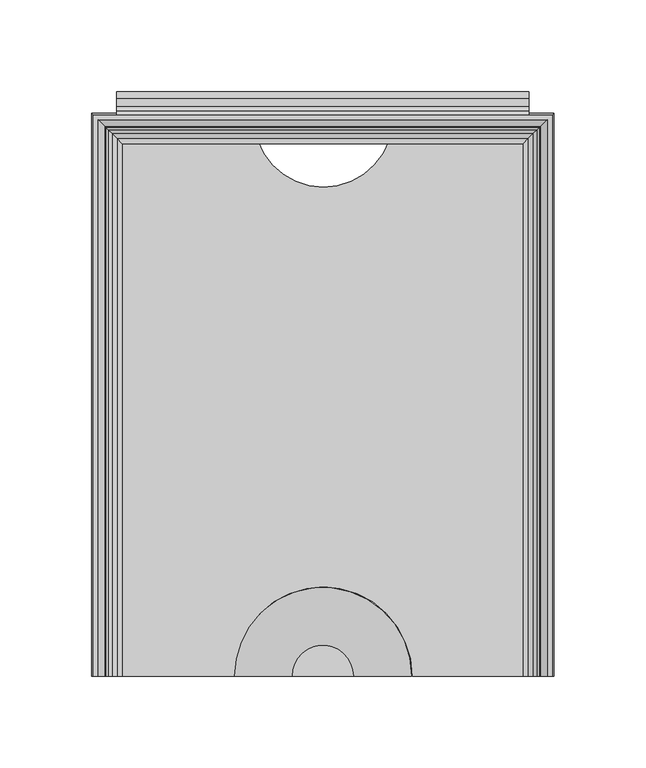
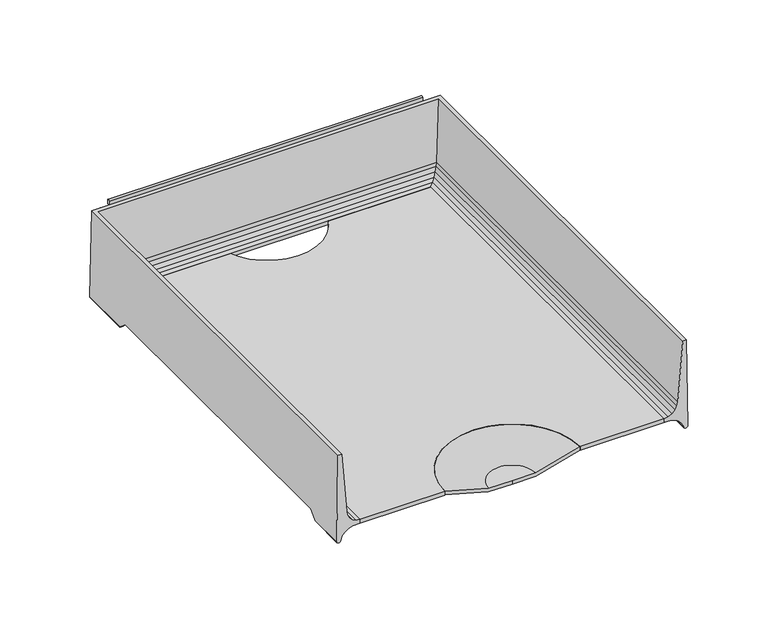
"""IFC4 building model written with IfcOpenShell, lengths in millimetres: furniture geometry."""

from ifc_helpers import new_model, si_unit, point, frame, frame_2d, origin, place, context, project, spatial, polyline, circle_curve, ellipse_curve, trimmed, segment, composite_curve, outline, extrude, source, transform, mapped, element, save
from ifc_brep_helpers import plane_surface, cylinder_surface, revolved_surface, advanced_brep


def furniture_baef4f76(model_context):
    return source(origin(), model_context, "Body", "SolidModel", [
        advanced_brep(
        [(126.0820502, -154.0206082, 950.6007489), (125.1325529, -154.0206082, 1016.0001914), (122.4547921, -154.0206082, 1016.0001914), (118.8379747, -154.0206082, 971.2131003), (118.4123648, -154.0206082, 968.4796052), (117.0774354, -154.0206082, 965.7785664), (114.9656457, -154.0206082, 963.6296015), (112.28832, -154.0206082, 962.2477261), (109.3133381, -154.0206082, 961.7712052), (109.3133381, -154.0206082, 958.9490971), (114.5666739, -154.0206082, 958.7560987), (117.605351, -154.0206082, 957.6997218), (120.2416, -154.0206082, 955.8558822), (122.2762142, -154.0206082, 953.3639079), (123.1625518, -154.0206082, 950.3206655), (126.0820502, -127.6379698, 950.6007489), (126.0026181, -121.5231874, 956.071872), (126.0026181, 109.0611937, 956.071872), (126.0820502, 115.1759816, 950.6007489), (126.0820502, 153.036442, 950.6007489), (125.1325529, 152.0869447, 1016.0001914), (-125.1325529, 152.0869447, 1016.0001914), (-125.1325529, -154.0206082, 1016.0001914), (-122.4547921, -154.0206082, 1016.0001914), (-122.4547921, 149.4091839, 1016.0001914), (122.4547921, 149.4091839, 1016.0001914), (118.8379747, 145.7923665, 971.2131003), (118.4123648, 145.3667566, 968.4796052), (117.0774354, 144.0318272, 965.7785664), (114.9656457, 141.9200375, 963.6296015), (112.28832, 139.2427118, 962.2477261), (109.3133381, 136.2677299, 961.7712052), (109.3133381, 136.2677299, 958.9490971), (114.5666739, 141.5210656, 958.7560987), (117.605351, 144.5597428, 957.6997218), (120.2416, 147.1959918, 955.8558822), (120.2416, 109.3025941, 955.8558822), (119.9327864, 109.0611937, 956.071872), (119.9327864, -121.5231874, 956.071872), (120.2416, -121.7645876, 955.8558822), (122.2762142, -124.5497344, 953.3639079), (122.2762142, 149.230606, 953.3639079), (122.2762142, 112.0877435, 953.3639079), (123.1625518, -127.9510041, 950.3206655), (123.1625518, 150.1169436, 950.3206655), (123.1625518, 115.4890162, 950.3206655), (-126.0820502, 153.036442, 950.6007489), (-118.8379747, 145.7923665, 971.2131003), (-118.4123648, 145.3667566, 968.4796052), (-117.0774354, 144.0318272, 965.7785664), (-114.9656457, 141.9200375, 963.6296015), (-112.28832, 139.2427118, 962.2477261), (-109.3133381, 136.2677299, 961.7712052), (-109.3133381, 136.2677299, 958.9490971), (-114.5666739, 141.5210656, 958.7560987), (-117.605351, 144.5597428, 957.6997218), (-120.2416, 147.1959918, 955.8558822), (-122.2762142, 149.230606, 953.3639079), (-123.1625518, 150.1169436, 950.3206655), (-126.0820502, -154.0206082, 950.6007489), (-123.1625518, -154.0206082, 950.3206655), (-122.2762142, -154.0206082, 953.3639079), (-120.2416, -154.0206082, 955.8558822), (-117.605351, -154.0206082, 957.6997218), (-114.5666739, -154.0206082, 958.7560987), (-109.3133381, -154.0206082, 958.9490971), (-109.3133381, -154.0206082, 961.7712052), (-112.28832, -154.0206082, 962.2477261), (-114.9656457, -154.0206082, 963.6296015), (-117.0774354, -154.0206082, 965.7785664), (-118.4123648, -154.0206082, 968.4796052), (-118.8379747, -154.0206082, 971.2131003), (-126.0820502, 115.1759816, 950.6007489), (-126.0026181, 109.0611937, 956.071872), (-126.0026181, -121.5231874, 956.071872), (-126.0820502, -127.6379698, 950.6007489), (-120.2416, -121.7645876, 955.8558822), (-119.9327864, -121.5231874, 956.071872), (-119.9327864, 109.0611937, 956.071872), (-120.2416, 109.3025941, 955.8558822), (-122.2762142, 112.0877435, 953.3639079), (-122.2762142, -124.5497344, 953.3639079), (-123.1625518, 115.4890162, 950.3206655), (-123.1625518, -127.9510041, 950.3206655)],
        [
            (0, 1),
            (1, 2),
            (2, 3),
            (3, 4),
            (4, 5),
            (5, 6),
            (6, 7),
            (7, 8),
            (8, 9),
            (9, 10),
            (10, 11),
            (11, 12),
            (12, 13),
            (13, 14),
            (14, 0, circle_curve(frame((124.5859452, -154.0206082, 950.8396685), z_axis=(0.0, -1.0, 0.0), x_axis=(-1.0, 0.0, 0.0)), 1.515062)),
            (0, 15),
            (15, 16),
            (16, 17),
            (17, 18),
            (18, 19),
            (19, 20),
            (20, 1),
            (20, 21),
            (21, 22),
            (22, 23),
            (23, 24),
            (24, 25),
            (25, 2),
            (25, 26),
            (26, 3),
            (26, 27),
            (27, 4),
            (27, 28),
            (28, 5),
            (28, 29),
            (29, 6),
            (29, 30),
            (30, 7),
            (30, 31),
            (31, 8),
            (31, 32),
            (32, 9),
            (32, 33),
            (33, 10),
            (33, 34),
            (34, 11),
            (34, 35),
            (35, 36),
            (36, 37),
            (37, 38),
            (38, 39),
            (39, 12),
            (39, 40),
            (40, 13),
            (35, 41),
            (41, 42),
            (42, 36),
            (40, 43),
            (43, 14),
            (41, 44),
            (44, 45),
            (45, 42),
            (43, 15, ellipse_curve(frame((124.5859452, -127.3709422, 950.8396685), z_axis=(0.0, -0.6667949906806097, 0.7452411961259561), x_axis=(0.0, -0.7452411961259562, -0.6667949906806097)), 2.2721556, 1.515062)),
            (44, 19, ellipse_curve(frame((124.5859452, 151.540337, 950.8396685), z_axis=(0.7071067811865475, -0.7071067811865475, 0.0), x_axis=(-0.7071067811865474, -0.7071067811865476, 0.0)), 2.1426212, 1.515062)),
            (18, 45, ellipse_curve(frame((124.5859452, 114.9089538, 950.8396685), z_axis=(0.0, 0.6667946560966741, 0.7452414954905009), x_axis=(0.0, -0.7452414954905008, 0.6667946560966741)), 2.2721567, 1.515062)),
            (19, 46),
            (46, 21),
            (24, 47),
            (47, 26),
            (47, 48),
            (48, 27),
            (48, 49),
            (49, 28),
            (49, 50),
            (50, 29),
            (50, 51),
            (51, 30),
            (51, 52),
            (52, 31),
            (52, 53),
            (53, 32),
            (53, 54),
            (54, 33),
            (54, 55),
            (55, 34),
            (55, 56),
            (56, 35),
            (56, 57),
            (57, 41),
            (57, 58),
            (58, 44),
            (58, 46, ellipse_curve(frame((-124.5859452, 151.540337, 950.8396685), z_axis=(0.7071067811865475, 0.7071067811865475, 0.0), x_axis=(0.7071067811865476, -0.7071067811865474, 0.0)), 2.1426212, 1.515062)),
            (22, 59),
            (59, 60, circle_curve(frame((-124.5859452, -154.0206082, 950.8396685), z_axis=(0.0, -1.0, 0.0), x_axis=(1.0, 0.0, 0.0)), 1.515062)),
            (60, 61),
            (61, 62),
            (62, 63),
            (63, 64),
            (64, 65),
            (65, 66),
            (66, 67),
            (67, 68),
            (68, 69),
            (69, 70),
            (70, 71),
            (71, 23),
            (46, 72),
            (72, 73),
            (73, 74),
            (74, 75),
            (75, 59),
            (71, 47),
            (70, 48),
            (69, 49),
            (68, 50),
            (67, 51),
            (66, 52),
            (65, 53),
            (64, 54),
            (63, 55),
            (62, 76),
            (76, 77),
            (77, 78),
            (78, 79),
            (79, 56),
            (79, 80),
            (80, 57),
            (61, 81),
            (81, 76),
            (80, 82),
            (82, 58),
            (60, 83),
            (83, 81),
            (82, 72, ellipse_curve(frame((-124.5859452, 114.9089538, 950.8396685), z_axis=(0.0, 0.6667946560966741, 0.7452414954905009), x_axis=(0.0, 0.7452414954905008, -0.6667946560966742)), 2.2721567, 1.515062)),
            (75, 83, ellipse_curve(frame((-124.5859452, -127.3709422, 950.8396685), z_axis=(0.0, -0.6667949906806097, 0.7452411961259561), x_axis=(0.0, 0.745241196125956, 0.6667949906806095)), 2.2721556, 1.515062)),
            (38, 16),
            (74, 77),
            (37, 17),
            (73, 78),
        ],
        [
            plane_surface(frame((127.0, -154.0206082, 949.325), z_axis=(0.0, -1.0, 0.0), x_axis=(0.0, 0.0, 1.0))),
            plane_surface(frame((126.0820502, -154.0206082, 950.6007489), z_axis=(0.9998946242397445, 0.0, 0.01451690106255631), x_axis=(0.0, 1.0, 0.0))),
            plane_surface(frame((125.1325529, -154.0206082, 1016.0001914), z_axis=(0.0, 0.0, 1.0), x_axis=(0.0, 1.0, 0.0))),
            plane_surface(frame((122.4547921, -154.0206082, 1016.0001914), z_axis=(-0.9967551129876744, 0.0, 0.08049375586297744), x_axis=(0.0, 1.0, 0.0))),
            plane_surface(frame((118.8379747, -154.0206082, 971.2131003), z_axis=(-0.9880945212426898, 0.0, 0.15384803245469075), x_axis=(0.0, 1.0, 0.0))),
            plane_surface(frame((118.4123648, -154.0206082, 968.4796052), z_axis=(-0.8964873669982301, 0.0, 0.44306929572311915), x_axis=(0.0, 1.0, 0.0))),
            plane_surface(frame((117.0774354, -154.0206082, 965.7785664), z_axis=(-0.7132491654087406, 0.0, 0.7009105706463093), x_axis=(0.0, 1.0, 0.0))),
            plane_surface(frame((114.9656457, -154.0206082, 963.6296015), z_axis=(-0.45865074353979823, 0.0, 0.8886166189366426), x_axis=(0.0, 1.0, 0.0))),
            plane_surface(frame((112.28832, -154.0206082, 962.2477261), z_axis=(-0.15816001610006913, 0.0, 0.987413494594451), x_axis=(0.0, 1.0, 0.0))),
            plane_surface(frame((109.3133381, -154.0206082, 961.7712052), z_axis=(-1.0, 0.0, 0.0), x_axis=(0.0, 1.0, 0.0))),
            plane_surface(frame((109.3133381, -154.0206082, 958.9490971), z_axis=(-0.036713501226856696, 0.0, -0.9993258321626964), x_axis=(0.0, 1.0, 0.0))),
            plane_surface(frame((114.5666739, -154.0206082, 958.7560987), z_axis=(-0.3283669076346, 0.0, -0.9445502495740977), x_axis=(0.0, 1.0, 0.0))),
            plane_surface(frame((117.605351, -154.0206082, 957.6997218), z_axis=(-0.5731421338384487, 0.0, -0.819455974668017), x_axis=(0.0, 1.0, 0.0))),
            plane_surface(frame((120.2416, -154.0206082, 955.8558822), z_axis=(-0.77460799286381, 0.0, -0.6324416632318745), x_axis=(0.0, 1.0, 0.0))),
            plane_surface(frame((122.2762142, -154.0206082, 953.3639079), z_axis=(-0.9601080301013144, 0.0, -0.2796293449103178), x_axis=(0.0, 1.0, 0.0))),
            cylinder_surface(frame((124.5859452, -154.0206082, 950.8396685), z_axis=(0.0, -1.0, 0.0), x_axis=(-1.0, 0.0, 0.0)), 1.515062),
            plane_surface(frame((126.0820502, 153.036442, 950.6007489), z_axis=(0.0, 0.9998946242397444, 0.01451690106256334), x_axis=(-1.0, 0.0, 0.0))),
            plane_surface(frame((122.4547921, 149.4091839, 1016.0001914), z_axis=(0.0, -0.9967551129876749, 0.08049375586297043), x_axis=(-1.0, 0.0, 0.0))),
            plane_surface(frame((118.8379747, 145.7923665, 971.2131003), z_axis=(0.0, -0.9880945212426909, 0.15384803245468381), x_axis=(-1.0, 0.0, 0.0))),
            plane_surface(frame((118.4123648, 145.3667566, 968.4796052), z_axis=(0.0, -0.8964873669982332, 0.4430692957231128), x_axis=(-1.0, 0.0, 0.0))),
            plane_surface(frame((117.0774354, 144.0318272, 965.7785664), z_axis=(0.0, -0.7132491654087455, 0.7009105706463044), x_axis=(-1.0, 0.0, 0.0))),
            plane_surface(frame((114.9656457, 141.9200375, 963.6296015), z_axis=(0.0, -0.4586507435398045, 0.8886166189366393), x_axis=(-1.0, 0.0, 0.0))),
            plane_surface(frame((112.28832, 139.2427118, 962.2477261), z_axis=(0.0, -0.15816001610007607, 0.9874134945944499), x_axis=(-1.0, 0.0, 0.0))),
            plane_surface(frame((109.3133381, 136.2677299, 961.7712052), z_axis=(0.0, -1.0, 0.0), x_axis=(-1.0, 0.0, 0.0))),
            plane_surface(frame((109.3133381, 136.2677299, 958.9490971), z_axis=(0.0, -0.03671350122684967, -0.9993258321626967), x_axis=(-1.0, 0.0, 0.0))),
            plane_surface(frame((114.5666739, 141.5210656, 958.7560987), z_axis=(0.0, -0.32836690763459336, -0.9445502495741), x_axis=(-1.0, 0.0, 0.0))),
            plane_surface(frame((117.605351, 144.5597428, 957.6997218), z_axis=(0.0, -0.5731421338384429, -0.819455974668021), x_axis=(-1.0, 0.0, 0.0))),
            plane_surface(frame((120.2416, 147.1959918, 955.8558822), z_axis=(0.0, -0.7746079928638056, -0.6324416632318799), x_axis=(-1.0, 0.0, 0.0))),
            plane_surface(frame((122.2762142, 149.230606, 953.3639079), z_axis=(0.0, -0.9601080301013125, -0.27962934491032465), x_axis=(-1.0, 0.0, 0.0))),
            cylinder_surface(frame((127.0, 151.540337, 950.8396685), z_axis=(1.0, 0.0, 0.0), x_axis=(0.0, -1.0, 0.0)), 1.515062),
            plane_surface(frame((-127.0, -154.0206082, 949.325), z_axis=(0.0, -1.0, 0.0), x_axis=(0.0, 0.0, 1.0))),
            plane_surface(frame((-126.0820502, 153.036442, 950.6007489), z_axis=(-0.9998946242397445, 0.0, 0.01451690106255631), x_axis=(0.0, -1.0, 0.0))),
            plane_surface(frame((-122.4547921, 149.4091839, 1016.0001914), z_axis=(0.9967551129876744, 0.0, 0.08049375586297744), x_axis=(0.0, -1.0, 0.0))),
            plane_surface(frame((-118.8379747, 145.7923665, 971.2131003), z_axis=(0.9880945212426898, 0.0, 0.15384803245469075), x_axis=(0.0, -1.0, 0.0))),
            plane_surface(frame((-118.4123648, 145.3667566, 968.4796052), z_axis=(0.8964873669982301, 0.0, 0.44306929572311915), x_axis=(0.0, -1.0, 0.0))),
            plane_surface(frame((-117.0774354, 144.0318272, 965.7785664), z_axis=(0.7132491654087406, 0.0, 0.7009105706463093), x_axis=(0.0, -1.0, 0.0))),
            plane_surface(frame((-114.9656457, 141.9200375, 963.6296015), z_axis=(0.45865074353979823, 0.0, 0.8886166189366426), x_axis=(0.0, -1.0, 0.0))),
            plane_surface(frame((-112.28832, 139.2427118, 962.2477261), z_axis=(0.15816001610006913, 0.0, 0.987413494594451), x_axis=(0.0, -1.0, 0.0))),
            plane_surface(frame((-109.3133381, 136.2677299, 961.7712052), z_axis=(1.0, 0.0, 0.0), x_axis=(0.0, -1.0, 0.0))),
            plane_surface(frame((-109.3133381, 136.2677299, 958.9490971), z_axis=(0.036713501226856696, 0.0, -0.9993258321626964), x_axis=(0.0, -1.0, 0.0))),
            plane_surface(frame((-114.5666739, 141.5210656, 958.7560987), z_axis=(0.3283669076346, 0.0, -0.9445502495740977), x_axis=(0.0, -1.0, 0.0))),
            plane_surface(frame((-117.605351, 144.5597428, 957.6997218), z_axis=(0.5731421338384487, 0.0, -0.819455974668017), x_axis=(0.0, -1.0, 0.0))),
            plane_surface(frame((-120.2416, 147.1959918, 955.8558822), z_axis=(0.77460799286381, 0.0, -0.6324416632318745), x_axis=(0.0, -1.0, 0.0))),
            plane_surface(frame((-122.2762142, 149.230606, 953.3639079), z_axis=(0.9601080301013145, 0.0, -0.2796293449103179), x_axis=(0.0, -1.0, 0.0))),
            cylinder_surface(frame((-124.5859452, 153.9543918, 950.8396685), z_axis=(0.0, 1.0, 0.0), x_axis=(1.0, 0.0, 0.0)), 1.515062),
            plane_surface(frame((-127.0, -130.1695728, 948.3356296), z_axis=(0.0, 0.6667949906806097, -0.7452411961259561), x_axis=(1.0, 0.0, 0.0))),
            plane_surface(frame((-127.0, -121.5231874, 956.071872), z_axis=(0.0, 0.0, -1.0), x_axis=(1.0, 0.0, 0.0))),
            plane_surface(frame((-127.0, 109.0611937, 956.071872), z_axis=(0.0, -0.6667946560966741, -0.7452414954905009), x_axis=(1.0, 0.0, 0.0))),
        ],
        [
            (0, [[1, 2, 3, 4, 5, 6, 7, 8, 9, 10, 11, 12, 13, 14, 15]]),
            (1, [[-1, 16, 17, 18, 19, 20, 21, 22]]),
            (2, [[-2, -22, 23, 24, 25, 26, 27, 28]]),
            (3, [[-3, -28, 29, 30]]),
            (4, [[-4, -30, 31, 32]]),
            (5, [[-5, -32, 33, 34]]),
            (6, [[-6, -34, 35, 36]]),
            (7, [[-7, -36, 37, 38]]),
            (8, [[-8, -38, 39, 40]]),
            (9, [[-9, -40, 41, 42]]),
            (10, [[-10, -42, 43, 44]]),
            (11, [[-11, -44, 45, 46]]),
            (12, [[-12, -46, 47, 48, 49, 50, 51, 52]]),
            (13, [[-13, -52, 53, 54]]),
            (13, [[55, 56, 57, -48]]),
            (14, [[-14, -54, 58, 59]]),
            (14, [[60, 61, 62, -56]]),
            (15, [[-15, -59, 63, -16]]),
            (15, [[64, -20, 65, -61]]),
            (16, [[-21, 66, 67, -23]]),
            (17, [[-27, 68, 69, -29]]),
            (18, [[-31, -69, 70, 71]]),
            (19, [[-33, -71, 72, 73]]),
            (20, [[-35, -73, 74, 75]]),
            (21, [[-37, -75, 76, 77]]),
            (22, [[-39, -77, 78, 79]]),
            (23, [[-41, -79, 80, 81]]),
            (24, [[-43, -81, 82, 83]]),
            (25, [[-45, -83, 84, 85]]),
            (26, [[-47, -85, 86, 87]]),
            (27, [[-55, -87, 88, 89]]),
            (28, [[-60, -89, 90, 91]]),
            (29, [[-64, -91, 92, -66]]),
            (30, [[-25, 93, 94, 95, 96, 97, 98, 99, 100, 101, 102, 103, 104, 105, 106]]),
            (31, [[-24, -67, 107, 108, 109, 110, 111, -93]]),
            (32, [[-26, -106, 112, -68]]),
            (33, [[-70, -112, -105, 113]]),
            (34, [[-72, -113, -104, 114]]),
            (35, [[-74, -114, -103, 115]]),
            (36, [[-76, -115, -102, 116]]),
            (37, [[-78, -116, -101, 117]]),
            (38, [[-80, -117, -100, 118]]),
            (39, [[-82, -118, -99, 119]]),
            (40, [[-84, -119, -98, 120]]),
            (41, [[-86, -120, -97, 121, 122, 123, 124, 125]]),
            (42, [[-88, -125, 126, 127]]),
            (42, [[-96, 128, 129, -121]]),
            (43, [[-90, -127, 130, 131]]),
            (43, [[-95, 132, 133, -128]]),
            (44, [[-92, -131, 134, -107]]),
            (44, [[-94, -111, 135, -132]]),
            (45, [[136, -17, -63, -58, -53, -51]]),
            (45, [[137, -122, -129, -133, -135, -110]]),
            (46, [[-136, -50, 138, -18]]),
            (46, [[-137, -109, 139, -123]]),
            (47, [[-138, -49, -57, -62, -65, -19]]),
            (47, [[-139, -108, -134, -130, -126, -124]]),
        ],
    ),
        extrude(outline(composite_curve([segment(polyline([(-109.3647805, 138.2769393), (-35.6610422, 138.2769393)]), True, "CONTINUOUS"), segment(trimmed(circle_curve(frame_2d((0.3369133, 150.6584166)), 38.0677525), [point((-35.6610422, 138.2769393))], [point((36.3348688, 138.2769393))], True, "CARTESIAN"), True, "CONTINUOUS"), segment(polyline([(36.3348688, 138.2769393), (109.6504969, 138.2769393), (109.6504969, -153.9875), (48.9112184, -153.9875)]), True, "CONTINUOUS"), segment(trimmed(circle_curve(frame_2d((0.2842795, -153.9323196)), 48.6269702), [point((48.9112184, -153.9875))], [point((-48.3426595, -153.9875))], True, "CARTESIAN"), True, "CONTINUOUS"), segment(polyline([(-48.3426595, -153.9875), (-109.3647805, -153.9875), (-109.3647805, 138.2769393)]), True, "CONTINUOUS")], self_intersect=False)), frame((0.0, 0.0, 958.9314677), z_axis=(0.0, 0.0, 1.0), x_axis=(1.0, 0.0, 0.0)), (0.0, 0.0, 1.0), 2.8395461),
        extrude(outline(composite_curve([segment(trimmed(circle_curve(frame_2d((162.7186949, 1000.1707343)), 1.9049988), [point((164.6236937, 1000.1707343))], [point((160.8136962, 1000.1707343))], False, "CARTESIAN"), True, "CONTINUOUS"), segment(polyline([(160.8136962, 1000.1707343), (160.8136962, 1003.5997311), (160.0516969, 1004.3617303), (156.4380325, 1004.3617303), (152.1427596, 1002.0143331), (152.1427596, 1010.5191285), (156.4380325, 1008.1717312), (160.8136928, 1008.1717312)]), True, "CONTINUOUS"), segment(trimmed(circle_curve(frame_2d((160.8136928, 1004.3617303)), 3.8100009), [point((160.8136928, 1008.1717312))], [point((164.6236937, 1004.3617303))], False, "CARTESIAN"), True, "CONTINUOUS"), segment(polyline([(164.6236937, 1004.3617303), (164.6236937, 1000.1707343)]), True, "CONTINUOUS")], self_intersect=False)), frame((-112.5397809, 0.0, 0.0), z_axis=(1.0, 0.0, 0.0), x_axis=(0.0, 1.0, 0.0)), (0.0, 0.0, 1.0), 225.0795617),
        advanced_brep(
        [(-16.8929028, -153.9875, 952.896875), (-48.4614622, -153.9875, 961.8045432), (-48.4614622, -153.9875, 959.2130018), (-16.9249292, -153.9875, 950.3143704), (0.0, -153.9875, 950.3143704), (0.0, -153.9875, 952.896875), (16.8929028, -153.9875, 952.896875), (16.9249292, -153.9875, 950.3143704), (48.4614622, -153.9875, 959.2130018), (48.4614622, -153.9875, 961.8045432)],
        [
            (0, 1),
            (1, 2),
            (2, 3),
            (3, 4),
            (4, 5),
            (5, 0),
            (6, 5),
            (4, 7),
            (7, 8),
            (8, 9),
            (9, 6),
            (9, 1, circle_curve(frame((0.0, -153.9875, 961.8045432), z_axis=(0.0, 0.0, 1.0), x_axis=(-1.0, 0.0, 0.0)), 48.4614622)),
            (0, 6, circle_curve(frame((0.0, -153.9875, 952.896875), z_axis=(0.0, 0.0, -1.0), x_axis=(-1.0, 0.0, 0.0)), 16.8929028)),
            (8, 2, circle_curve(frame((0.0, -153.9875, 959.2130018), z_axis=(0.0, 0.0, 1.0), x_axis=(-1.0, 0.0, 0.0)), 48.4614622)),
            (7, 3, circle_curve(frame((0.0, -153.9875, 950.3143704), z_axis=(0.0, 0.0, 1.0), x_axis=(-1.0, 0.0, 0.0)), 16.9249292)),
        ],
        [
            plane_surface(frame((0.0, -153.9875, 949.325), z_axis=(0.0, -1.0, 0.0), x_axis=(-1.0, 0.0, 0.0))),
            plane_surface(frame((0.0, -153.9875, 949.325), z_axis=(0.0, -1.0, 0.0), x_axis=(1.0, 0.0, 0.0))),
            revolved_surface(polyline([(-48.4614622, -153.9875, 961.8045432), (-16.8929028, -153.9875, 952.896875)]), (0.0, -153.9875, 949.325), (0.0, 0.0, 1.0)),
            cylinder_surface(frame((0.0, -153.9875, 949.325), z_axis=(0.0, 0.0, 1.0), x_axis=(-1.0, 0.0, 0.0)), 48.4614622),
            revolved_surface(polyline([(-16.9249292, -153.9875, 950.3143704), (-48.4614622, -153.9875, 959.2130018)]), (0.0, -153.9875, 949.325), (0.0, 0.0, 1.0)),
            plane_surface(frame((0.0, -153.9875, 950.3143704), z_axis=(0.0, 0.0, -1.0), x_axis=(-1.0, 0.0, 0.0))),
            plane_surface(frame((0.0, -153.9875, 952.896875), z_axis=(0.0, 0.0, 1.0), x_axis=(-1.0, 0.0, 0.0))),
        ],
        [
            (0, [[1, 2, 3, 4, 5, 6]]),
            (1, [[7, -5, 8, 9, 10, 11]]),
            (2, [[12, -1, 13, -11]]),
            (3, [[14, -2, -12, -10]]),
            (4, [[15, -3, -14, -9]]),
            (5, [[-4, -15, -8]]),
            (6, [[-13, -6, -7]]),
        ],
    ),
        extrude(outline(composite_curve([segment(polyline([(153.9875, 1016.0), (152.1427596, 1016.0), (152.1427596, 1018.8315333)]), True, "CONTINUOUS"), segment(trimmed(circle_curve(frame_2d((153.0651298, 1018.5262665)), 0.9715733), [point((152.1427596, 1018.8315333))], [point((153.9875, 1018.8315333))], False, "CARTESIAN"), True, "CONTINUOUS"), segment(polyline([(153.9875, 1018.8315333), (153.9875, 1016.0)]), True, "CONTINUOUS")], self_intersect=False)), frame((-112.5397809, 0.0, 0.0), z_axis=(1.0, 0.0, 0.0), x_axis=(0.0, 1.0, 0.0)), (0.0, 0.0, 1.0), 225.0795617),
    ])


if __name__ == "__main__":
    model = new_model("IFC4")
    model_context = context("Model", 3, world=origin())
    ifc_project = project(units=[si_unit("LENGTHUNIT", "METRE", prefix="MILLI")], contexts=[model_context])
    site = spatial("IfcSite", under=ifc_project)
    building = spatial("IfcBuilding", under=site)
    placement = place(None, origin())
    furniture_shape = furniture_baef4f76(model_context)
    element("IfcFurniture", 1, ObjectType="HermanMiller_ThrivePortfolio_Y7216_PaperTray : 3\"H x 12\"D x 10\"W", at=placement, inside=building, context=model_context, shape_type="MappedRepresentation", body=[
        mapped(furniture_shape, transform((0.0, 0.0, 0.0), x_axis=(1.0, 0.0, 0.0), y_axis=(0.0, 1.0, 0.0), z_axis=(0.0, 0.0, 1.0))),
    ])
    save(model, "model.ifc")
